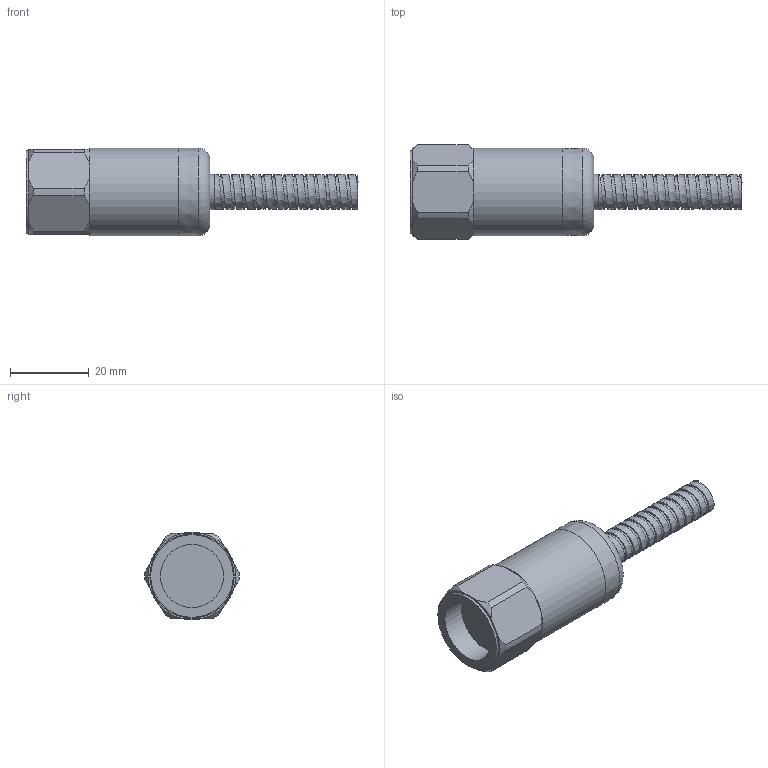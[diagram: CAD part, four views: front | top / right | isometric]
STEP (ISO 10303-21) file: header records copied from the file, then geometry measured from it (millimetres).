
FILE_DESCRIPTION(/* description */ (''),/* implementation_level */ '2;1');
FILE_NAME(/* name */ 'Z:\Engineering\Drawings\3D Library\Assemblies\Website\Premium Top\HS-150 Top FEP Cable with Protective Conduit\HS-150XXX30C05.stp',/* time_stamp */ '2023-03-02T22:58:16+00:00',/* author */ ('Ricardo.Peneda'),/* organization */ (''),/* preprocessor_version */ 'ST-DEVELOPER v18.1',/* originating_system */ 'Autodesk Inventor 2021',/* authorisation */ '');
FILE_SCHEMA (('AUTOMOTIVE_DESIGN { 1 0 10303 214 3 1 1 }'));
Length unit declared in the file: inch
Products named in the file (1): HS-150XXX30C05_Shrinkwrap_1
Bounding box: 84.3 x 23.99 x 22.22 mm (x, y, z)
Volume: 11535.1 mm3; surface area: 10289.7 mm2
Topology: 3 solids, 3 shells, 77 faces, 210 edges, 144 vertices
Faces by surface type: cone 32, plane 24, cylinder 12, bspline 8, torus 1
Full cylindrical faces by diameter (mm): 9 x1, 15.055 x1, 16 x1, 20 x1, 21 x1, 22.2 x1
Entity records: 16572 total; most frequent: CARTESIAN_POINT 14498, ORIENTED_EDGE 420, DIRECTION 413, EDGE_CURVE 210, AXIS2_PLACEMENT_3D 173, VERTEX_POINT 144, CIRCLE 103, EDGE_LOOP 84
